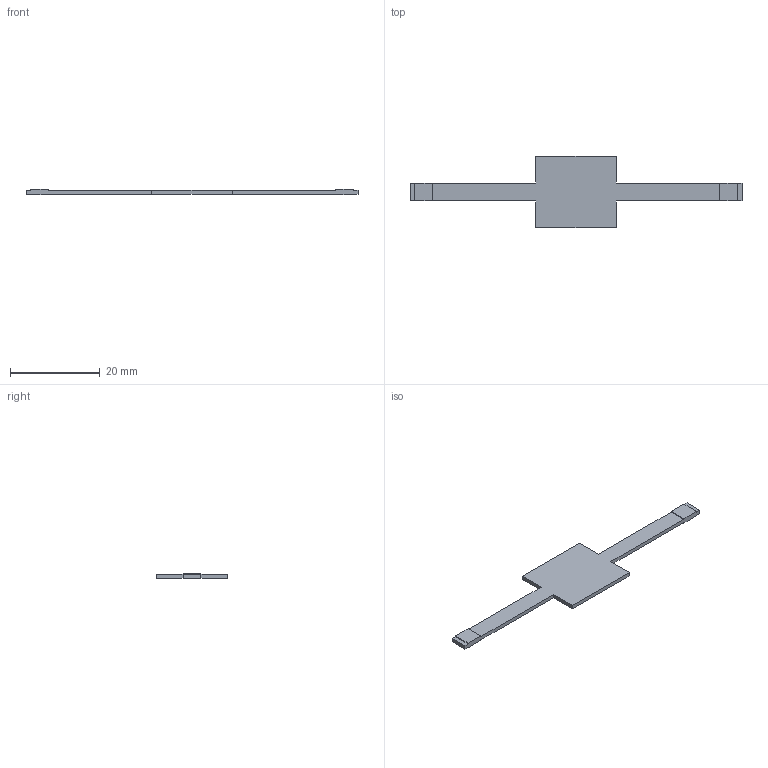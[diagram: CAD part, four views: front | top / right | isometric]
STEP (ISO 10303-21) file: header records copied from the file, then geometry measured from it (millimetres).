
FILE_DESCRIPTION(('Open CASCADE Model'),'2;1');
FILE_NAME('Open CASCADE Shape Model','2026-09-08T11:14:54',('Author'),( 'Open CASCADE'),'Open CASCADE STEP processor 7.7','Open CASCADE 7.7' ,'Unknown');
FILE_SCHEMA(('AUTOMOTIVE_DESIGN { 1 0 10303 214 1 1 1 1 }'));
Length unit declared in the file: millimetre
Products named in the file (1): Open CASCADE STEP translator 7.7 24
Bounding box: 74 x 16 x 1.2 mm (x, y, z)
Volume: 470.4 mm3; surface area: 1195.6 mm2
Topology: 1 solids, 1 shells, 30 faces, 84 edges, 56 vertices
Faces by surface type: plane 30
Entity records: 2032 total; most frequent: CARTESIAN_POINT 357, DIRECTION 296, LINE 234, VECTOR 234, ORIENTED_EDGE 168, PCURVE 168, DEFINITIONAL_REPRESENTATION 168, EDGE_CURVE 84
